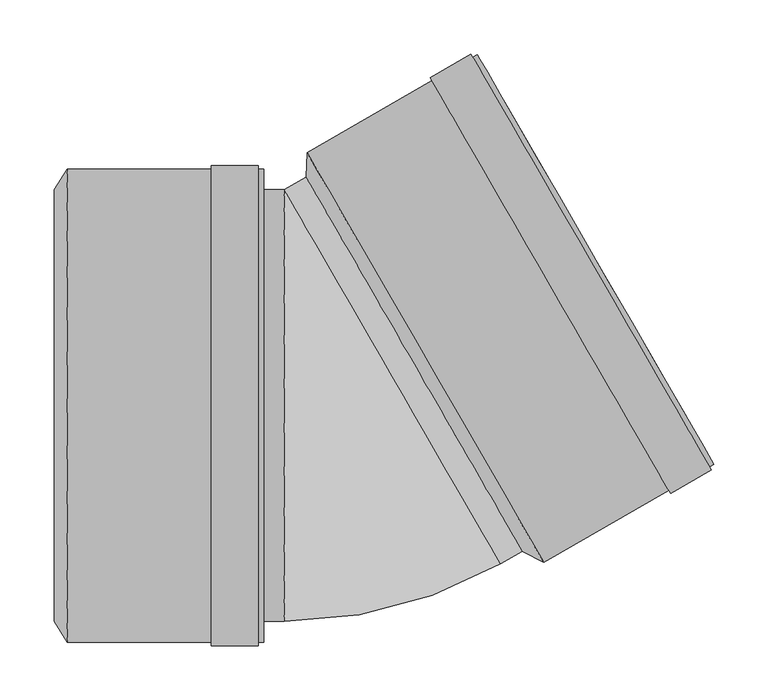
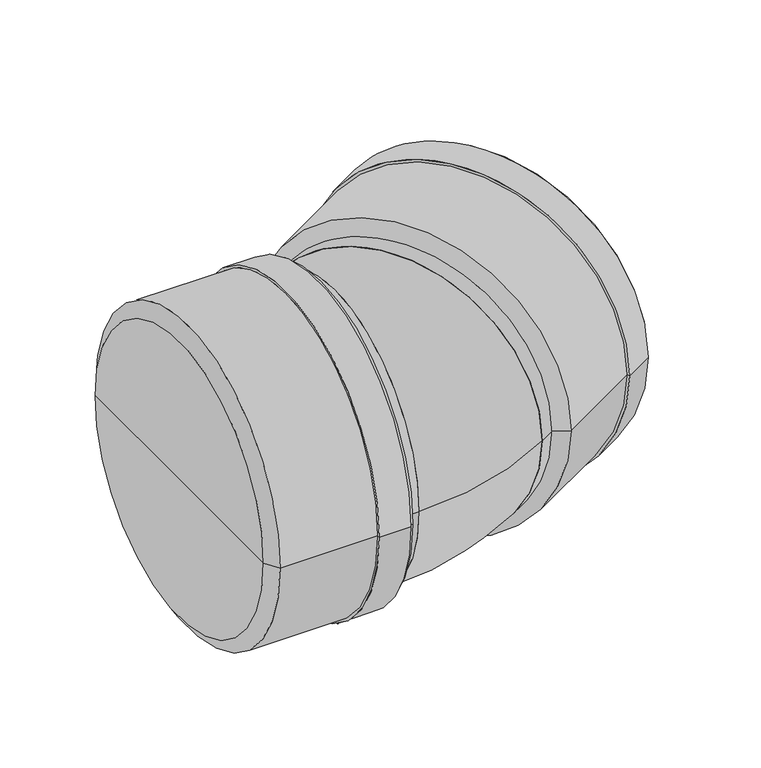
"""IFC4 building model written with IfcOpenShell, lengths in millimetres: pipe fitting geometry, pf_KGB : pf_KGB."""

from ifc_helpers import new_model, si_unit, point, frame, origin, origin_2d, place, context, project, spatial, polyline, circle_curve, ellipse_curve, trimmed, segment, composite_curve, outline, extrude, source, transform, mapped, element, save
from ifc_brep_helpers import plane_surface, cylinder_surface, revolved_surface, advanced_brep


def pipe_fitting_635b38b5(model_context):
    return source(origin(), model_context, "Body", "SolidModel", [
        advanced_brep(
        [(166.510751, -134.8050808, 0.0), (-33.489249, 211.6050808, 0.0), (-32.4737391, 234.246166, 0.0), (186.6262609, -145.246166, 0.0), (66.510751, 38.4, 0.0), (344.0696793, -54.346166, 0.0), (124.9696793, 325.146166, 0.0), (134.5196793, 308.6050808, 0.0), (334.5196793, -37.8050808, 0.0), (120.8127574, 322.746166, 0.0), (339.9127574, -56.746166, 0.0), (119.1127574, 325.6906523, 0.0), (341.6127574, -59.6906523, 0.0), (81.3540498, 303.8906523, 0.0), (303.8540498, -81.4906523, 0.0), (83.0540498, 300.946166, 0.0), (302.1540498, -78.546166, 0.0), (177.0762609, -128.7050808, 0.0), (-22.9237391, 217.7050808, 0.0), (77.0762609, 44.5, 0.0)],
        [
            (0, 1, circle_curve(frame((66.510751, 38.4, 0.0), z_axis=(0.8660254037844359, 0.5000000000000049, 0.0), x_axis=(-0.5000000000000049, 0.8660254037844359, 0.0)), 200.0)),
            (1, 2),
            (2, 3, circle_curve(frame((77.0762609, 44.5, 0.0), z_axis=(-0.8660254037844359, -0.5000000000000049, 0.0), x_axis=(-0.5000000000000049, 0.8660254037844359, 0.0)), 219.1)),
            (3, 0),
            (1, 0, circle_curve(frame((66.510751, 38.4, 0.0), z_axis=(0.8660254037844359, 0.5000000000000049, 0.0), x_axis=(-0.5000000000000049, 0.8660254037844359, 0.0)), 200.0)),
            (3, 2, circle_curve(frame((77.0762609, 44.5, 0.0), z_axis=(-0.8660254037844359, -0.5000000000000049, 0.0), x_axis=(-0.5000000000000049, 0.8660254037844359, 0.0)), 219.1)),
            (4, 1),
            (0, 4),
            (5, 6, circle_curve(frame((234.5196793, 135.4, 0.0), z_axis=(0.8660254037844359, 0.5000000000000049, 0.0), x_axis=(-0.5000000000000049, 0.8660254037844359, 0.0)), 219.1)),
            (6, 7),
            (7, 8, circle_curve(frame((234.5196793, 135.4, 0.0), z_axis=(-0.8660254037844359, -0.5000000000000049, 0.0), x_axis=(-0.5000000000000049, 0.8660254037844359, 0.0)), 200.0)),
            (8, 5),
            (9, 10, circle_curve(frame((230.3627574, 133.0, 0.0), z_axis=(0.8660254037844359, 0.5000000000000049, 0.0), x_axis=(-0.5000000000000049, 0.8660254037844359, 0.0)), 219.1)),
            (10, 5),
            (5, 6, circle_curve(frame((234.5196793, 135.4, 0.0), z_axis=(-0.8660254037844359, -0.5000000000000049, 0.0), x_axis=(-0.5000000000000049, 0.8660254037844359, 0.0)), 219.1)),
            (6, 9),
            (11, 12, circle_curve(frame((230.3627574, 133.0, 0.0), z_axis=(0.8660254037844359, 0.5000000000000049, 0.0), x_axis=(-0.5000000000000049, 0.8660254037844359, 0.0)), 222.5)),
            (12, 10),
            (9, 11),
            (13, 14, circle_curve(frame((192.6040498, 111.2, 0.0), z_axis=(0.8660254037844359, 0.5000000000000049, 0.0), x_axis=(-0.5000000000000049, 0.8660254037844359, 0.0)), 222.5)),
            (14, 12),
            (11, 13),
            (15, 16, circle_curve(frame((192.6040498, 111.2, 0.0), z_axis=(0.8660254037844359, 0.5000000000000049, 0.0), x_axis=(-0.5000000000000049, 0.8660254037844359, 0.0)), 219.1)),
            (16, 14),
            (13, 15),
            (8, 7, circle_curve(frame((234.5196793, 135.4, 0.0), z_axis=(-0.8660254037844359, -0.5000000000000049, 0.0), x_axis=(-0.5000000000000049, 0.8660254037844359, 0.0)), 200.0)),
            (10, 9, circle_curve(frame((230.3627574, 133.0, 0.0), z_axis=(0.8660254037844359, 0.5000000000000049, 0.0), x_axis=(-0.5000000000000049, 0.8660254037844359, 0.0)), 219.1)),
            (12, 11, circle_curve(frame((230.3627574, 133.0, 0.0), z_axis=(0.8660254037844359, 0.5000000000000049, 0.0), x_axis=(-0.5000000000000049, 0.8660254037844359, 0.0)), 222.5)),
            (14, 13, circle_curve(frame((192.6040498, 111.2, 0.0), z_axis=(0.8660254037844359, 0.5000000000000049, 0.0), x_axis=(-0.5000000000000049, 0.8660254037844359, 0.0)), 222.5)),
            (16, 15, circle_curve(frame((192.6040498, 111.2, 0.0), z_axis=(0.8660254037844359, 0.5000000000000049, 0.0), x_axis=(-0.5000000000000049, 0.8660254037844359, 0.0)), 219.1)),
            (2, 15),
            (16, 3),
            (17, 18, circle_curve(frame((77.0762609, 44.5, 0.0), z_axis=(0.8660254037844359, 0.5000000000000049, 0.0), x_axis=(-0.5000000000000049, 0.8660254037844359, 0.0)), 200.0)),
            (18, 19),
            (19, 17),
            (18, 17, circle_curve(frame((77.0762609, 44.5, 0.0), z_axis=(0.8660254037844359, 0.5000000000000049, 0.0), x_axis=(-0.5000000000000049, 0.8660254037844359, 0.0)), 200.0)),
            (7, 18),
            (17, 8),
        ],
        [
            revolved_surface(polyline([(-32.4737391, 234.246166, 0.0), (-33.489249, 211.6050808, 0.0)]), (66.510751, 38.4, 0.0), (-0.8660254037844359, -0.5000000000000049, 0.0)),
            plane_surface(frame((66.510751, 38.4, 0.0), z_axis=(-0.8660254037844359, -0.5000000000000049, 0.0), x_axis=(-0.5000000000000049, 0.8660254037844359, 0.0))),
            plane_surface(frame((234.5196793, 135.4, 0.0), z_axis=(0.8660254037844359, 0.5000000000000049, 0.0), x_axis=(-0.5000000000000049, 0.8660254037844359, 0.0))),
            cylinder_surface(frame((66.510751, 38.4, 0.0), z_axis=(-0.8660254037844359, -0.5000000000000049, 0.0), x_axis=(-0.5000000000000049, 0.8660254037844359, 0.0)), 219.1),
            plane_surface(frame((230.3627574, 133.0, 0.0), z_axis=(0.8660254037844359, 0.5000000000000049, 0.0), x_axis=(-0.5000000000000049, 0.8660254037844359, 0.0))),
            cylinder_surface(frame((66.510751, 38.4, 0.0), z_axis=(-0.8660254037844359, -0.5000000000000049, 0.0), x_axis=(-0.5000000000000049, 0.8660254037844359, 0.0)), 222.5),
            plane_surface(frame((192.6040498, 111.2, 0.0), z_axis=(-0.8660254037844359, -0.5000000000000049, 0.0), x_axis=(-0.5000000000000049, 0.8660254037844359, 0.0))),
            plane_surface(frame((77.0762609, 44.5, 0.0), z_axis=(0.8660254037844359, 0.5000000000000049, 0.0), x_axis=(-0.5000000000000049, 0.8660254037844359, 0.0))),
            revolved_surface(polyline([(-22.9237391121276, 217.70508073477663, 0.0), (134.51967932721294, 308.60508075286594, 0.0)]), (66.510751, 38.4, 0.0), (-0.8660254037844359, -0.5000000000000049, 0.0)),
        ],
        [
            (0, [[1, 2, 3, 4]]),
            (0, [[5, -4, 6, -2]]),
            (1, [[7, -1, 8]]),
            (1, [[-8, -5, -7]]),
            (2, [[9, 10, 11, 12]]),
            (3, [[13, 14, 15, 16]]),
            (4, [[17, 18, -13, 19]]),
            (5, [[20, 21, -17, 22]]),
            (6, [[23, 24, -20, 25]]),
            (2, [[-15, -12, 26, -10]]),
            (3, [[27, -16, -9, -14]]),
            (4, [[28, -19, -27, -18]]),
            (5, [[29, -22, -28, -21]]),
            (6, [[30, -25, -29, -24]]),
            (3, [[-3, 31, -30, 32]]),
            (3, [[-6, -32, -23, -31]]),
            (7, [[33, 34, 35]]),
            (7, [[36, -35, -34]]),
            (8, [[-11, 37, -33, 38]]),
            (8, [[-26, -38, -36, -37]]),
        ],
    ),
        advanced_brep(
        [(-266.8, -200.0, 0.0), (-266.8, 200.0, 0.0), (-254.6, 219.1, 0.0), (-254.6, -219.1, 0.0), (-266.8, 0.0, 0.0), (-72.8, -219.1, 0.0), (-72.8, 219.1, 0.0), (-72.8, 200.0, 0.0), (-72.8, -200.0, 0.0), (-77.6, 219.1, 0.0), (-77.6, -219.1, 0.0), (-77.6, 222.5, 0.0), (-77.6, -222.5, 0.0), (-121.2, 222.5, 0.0), (-121.2, -222.5, 0.0), (-121.2, 219.1, 0.0), (-121.2, -219.1, 0.0), (-254.6, -200.0, 0.0), (-254.6, 200.0, 0.0), (-254.6, 0.0, 0.0)],
        [
            (0, 1, circle_curve(frame((-266.8, 0.0, 0.0), z_axis=(1.0, 0.0, 0.0), x_axis=(0.0, 1.0, 0.0)), 200.0)),
            (1, 2),
            (2, 3, circle_curve(frame((-254.6, 0.0, 0.0), z_axis=(-1.0, 0.0, 0.0), x_axis=(0.0, 1.0, 0.0)), 219.1)),
            (3, 0),
            (1, 0, circle_curve(frame((-266.8, 0.0, 0.0), z_axis=(1.0, 0.0, 0.0), x_axis=(0.0, 1.0, 0.0)), 200.0)),
            (3, 2, circle_curve(frame((-254.6, 0.0, 0.0), z_axis=(-1.0, 0.0, 0.0), x_axis=(0.0, 1.0, 0.0)), 219.1)),
            (4, 1),
            (0, 4),
            (5, 6, circle_curve(frame((-72.8, 0.0, 0.0), z_axis=(1.0, 0.0, 0.0), x_axis=(0.0, 1.0, 0.0)), 219.1)),
            (6, 7),
            (7, 8, circle_curve(frame((-72.8, 0.0, 0.0), z_axis=(-1.0, 0.0, 0.0), x_axis=(0.0, 1.0, 0.0)), 200.0)),
            (8, 5),
            (9, 10, circle_curve(frame((-77.6, 0.0, 0.0), z_axis=(1.0, 0.0, 0.0), x_axis=(0.0, 1.0, 0.0)), 219.1)),
            (10, 5),
            (5, 6, circle_curve(frame((-72.8, 0.0, 0.0), z_axis=(-1.0, 0.0, 0.0), x_axis=(0.0, 1.0, 0.0)), 219.1)),
            (6, 9),
            (11, 12, circle_curve(frame((-77.6, 0.0, 0.0), z_axis=(1.0, 0.0, 0.0), x_axis=(0.0, 1.0, 0.0)), 222.5)),
            (12, 10),
            (9, 11),
            (13, 14, circle_curve(frame((-121.2, 0.0, 0.0), z_axis=(1.0, 0.0, 0.0), x_axis=(0.0, 1.0, 0.0)), 222.5)),
            (14, 12),
            (11, 13),
            (15, 16, circle_curve(frame((-121.2, 0.0, 0.0), z_axis=(1.0, 0.0, 0.0), x_axis=(0.0, 1.0, 0.0)), 219.1)),
            (16, 14),
            (13, 15),
            (8, 7, circle_curve(frame((-72.8, 0.0, 0.0), z_axis=(-1.0, 0.0, 0.0), x_axis=(0.0, 1.0, 0.0)), 200.0)),
            (10, 9, circle_curve(frame((-77.6, 0.0, 0.0), z_axis=(1.0, 0.0, 0.0), x_axis=(0.0, 1.0, 0.0)), 219.1)),
            (12, 11, circle_curve(frame((-77.6, 0.0, 0.0), z_axis=(1.0, 0.0, 0.0), x_axis=(0.0, 1.0, 0.0)), 222.5)),
            (14, 13, circle_curve(frame((-121.2, 0.0, 0.0), z_axis=(1.0, 0.0, 0.0), x_axis=(0.0, 1.0, 0.0)), 222.5)),
            (16, 15, circle_curve(frame((-121.2, 0.0, 0.0), z_axis=(1.0, 0.0, 0.0), x_axis=(0.0, 1.0, 0.0)), 219.1)),
            (2, 15),
            (16, 3),
            (17, 18, circle_curve(frame((-254.6, 0.0, 0.0), z_axis=(1.0, 0.0, 0.0), x_axis=(0.0, 1.0, 0.0)), 200.0)),
            (18, 19),
            (19, 17),
            (18, 17, circle_curve(frame((-254.6, 0.0, 0.0), z_axis=(1.0, 0.0, 0.0), x_axis=(0.0, 1.0, 0.0)), 200.0)),
            (7, 18),
            (17, 8),
        ],
        [
            revolved_surface(polyline([(-254.6, 219.1, 0.0), (-266.8, 200.0, 0.0)]), (-266.8, 0.0, 0.0), (-1.0, 0.0, 0.0)),
            plane_surface(frame((-266.8, 0.0, 0.0), z_axis=(-1.0, 0.0, 0.0), x_axis=(0.0, 1.0, 0.0))),
            plane_surface(frame((-72.8, 0.0, 0.0), z_axis=(1.0, 0.0, 0.0), x_axis=(0.0, 1.0, 0.0))),
            cylinder_surface(frame((-266.8, 0.0, 0.0), z_axis=(-1.0, 0.0, 0.0), x_axis=(0.0, 1.0, 0.0)), 219.1),
            plane_surface(frame((-77.6, 0.0, 0.0), z_axis=(1.0, 0.0, 0.0), x_axis=(0.0, 1.0, 0.0))),
            cylinder_surface(frame((-266.8, 0.0, 0.0), z_axis=(-1.0, 0.0, 0.0), x_axis=(0.0, 1.0, 0.0)), 222.5),
            plane_surface(frame((-121.2, 0.0, 0.0), z_axis=(-1.0, 0.0, 0.0), x_axis=(0.0, 1.0, 0.0))),
            plane_surface(frame((-254.6, 0.0, 0.0), z_axis=(1.0, 0.0, 0.0), x_axis=(0.0, 1.0, 0.0))),
            revolved_surface(polyline([(-254.6, 200.0, 0.0), (-72.80000000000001, 200.0, 0.0)]), (-266.8, 0.0, 0.0), (-1.0, 0.0, 0.0)),
        ],
        [
            (0, [[1, 2, 3, 4]]),
            (0, [[5, -4, 6, -2]]),
            (1, [[7, -1, 8]]),
            (1, [[-8, -5, -7]]),
            (2, [[9, 10, 11, 12]]),
            (3, [[13, 14, 15, 16]]),
            (4, [[17, 18, -13, 19]]),
            (5, [[20, 21, -17, 22]]),
            (6, [[23, 24, -20, 25]]),
            (2, [[-15, -12, 26, -10]]),
            (3, [[27, -16, -9, -14]]),
            (4, [[28, -19, -27, -18]]),
            (5, [[29, -22, -28, -21]]),
            (6, [[30, -25, -29, -24]]),
            (3, [[-3, 31, -30, 32]]),
            (3, [[-6, -32, -23, -31]]),
            (7, [[33, 34, 35]]),
            (7, [[36, -35, -34]]),
            (8, [[-11, 37, -33, 38]]),
            (8, [[-26, -38, -36, -37]]),
        ],
    ),
        extrude(outline(composite_curve([segment(trimmed(circle_curve(origin_2d(), 200.0), [point((0.0, -200.0))], [point((0.0, 200.0))], False, "CARTESIAN"), True, "CONTINUOUS"), segment(trimmed(circle_curve(origin_2d(), 200.0), [point((0.0, 200.0))], [point((0.0, -200.0))], False, "CARTESIAN"), True, "CONTINUOUS")], self_intersect=False)), frame((46.4101615, 26.7949192, 0.0), z_axis=(0.8660254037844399, 0.499999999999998, 0.0), x_axis=(0.0, 0.0, 1.0)), (0.0, 0.0, 1.0), 23.2101615),
        extrude(outline(composite_curve([segment(trimmed(circle_curve(origin_2d(), 200.0), [point((-200.0, 0.0))], [point((200.0, 0.0))], False, "CARTESIAN"), True, "CONTINUOUS"), segment(trimmed(circle_curve(origin_2d(), 200.0), [point((200.0, 0.0))], [point((-200.0, 0.0))], False, "CARTESIAN"), True, "CONTINUOUS")], self_intersect=False)), frame((-254.6, 0.0, 0.0), z_axis=(1.0, 0.0, 0.0), x_axis=(0.0, 1.0, 0.0)), (0.0, 0.0, 1.0), 201.0101615),
        advanced_brep(
        [(-53.5898385, -200.0, 0.0), (-53.5898385, 200.0, 0.0), (146.4101615, -146.4101615, 0.0)],
        [
            (0, 1, circle_curve(frame((-53.5898385, 0.0, 0.0), z_axis=(-1.0, 0.0, 0.0), x_axis=(0.0, 1.0, 0.0)), 200.0)),
            (1, 0, circle_curve(frame((-53.5898385, 0.0, 0.0), z_axis=(-1.0, 0.0, 0.0), x_axis=(0.0, 1.0, 0.0)), 200.0)),
            (2, 1, circle_curve(frame((46.4101615, 26.7949192, 0.0), z_axis=(0.8660254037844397, 0.49999999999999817, 0.0), x_axis=(-0.49999999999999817, 0.8660254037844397, 0.0)), 200.0)),
            (1, 2, circle_curve(frame((46.4101615, 26.7949192, 0.0), z_axis=(0.8660254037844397, 0.49999999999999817, 0.0), x_axis=(-0.49999999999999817, 0.8660254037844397, 0.0)), 200.0)),
            (2, 0, circle_curve(frame((-53.5898385, 200.0, 0.0), z_axis=(0.0, 0.0, -1.0), x_axis=(0.0, -1.0, 0.0)), 400.0)),
        ],
        [
            plane_surface(frame((-53.5898385, 200.0, -14.8), z_axis=(-1.0, 0.0, 0.0), x_axis=(0.0, -1.0, 0.0))),
            plane_surface(frame((-53.5898385, 200.0, -14.8), z_axis=(0.8660254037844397, 0.4999999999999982, 0.0), x_axis=(0.4999999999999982, -0.8660254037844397, 0.0))),
            revolved_surface(trimmed(ellipse_curve(frame((-53.5898385, 0.0, 0.0), z_axis=(1.0, 0.0, 0.0), x_axis=(0.0, 1.0, 0.0)), 200.0, 200.0), [point((-53.5898385, -200.0, 0.0))], [point((-53.5898385, 200.0, 0.0))], True, "CARTESIAN"), (-53.5898385, 200.0, -14.8), (0.0, 0.0, -1.0)),
            revolved_surface(trimmed(ellipse_curve(frame((-53.5898385, 0.0, 0.0), z_axis=(1.0, 0.0, 0.0), x_axis=(0.0, 1.0, 0.0)), 200.0, 200.0), [point((-53.5898385, 200.0, 0.0))], [point((-53.5898385, -200.0, 0.0))], True, "CARTESIAN"), (-53.5898385, 200.0, -14.8), (0.0, 0.0, -1.0)),
        ],
        [
            (0, [[1, 2]]),
            (1, [[3, 4]]),
            (2, [[5, -2, -3]]),
            (3, [[-1, -5, -4]]),
        ],
    ),
    ])


if __name__ == "__main__":
    model = new_model("IFC4")
    model_context = context("Model", 3, world=origin())
    ifc_project = project(units=[si_unit("LENGTHUNIT", "METRE", prefix="MILLI")], contexts=[model_context])
    site = spatial("IfcSite", under=ifc_project)
    building = spatial("IfcBuilding", under=site)
    placement = place(None, origin())
    pipe_fitting_shape = pipe_fitting_635b38b5(model_context)
    element("IfcPipeFitting", 1, ObjectType="pf_KGB : pf_KGB", at=placement, inside=building, context=model_context, shape_type="MappedRepresentation", body=[
        mapped(pipe_fitting_shape, transform((0.0, 0.0, 0.0), x_axis=(1.0, 0.0, 0.0), y_axis=(0.0, 1.0, 0.0), z_axis=(0.0, 0.0, 1.0))),
    ])
    save(model, "model.ifc")
